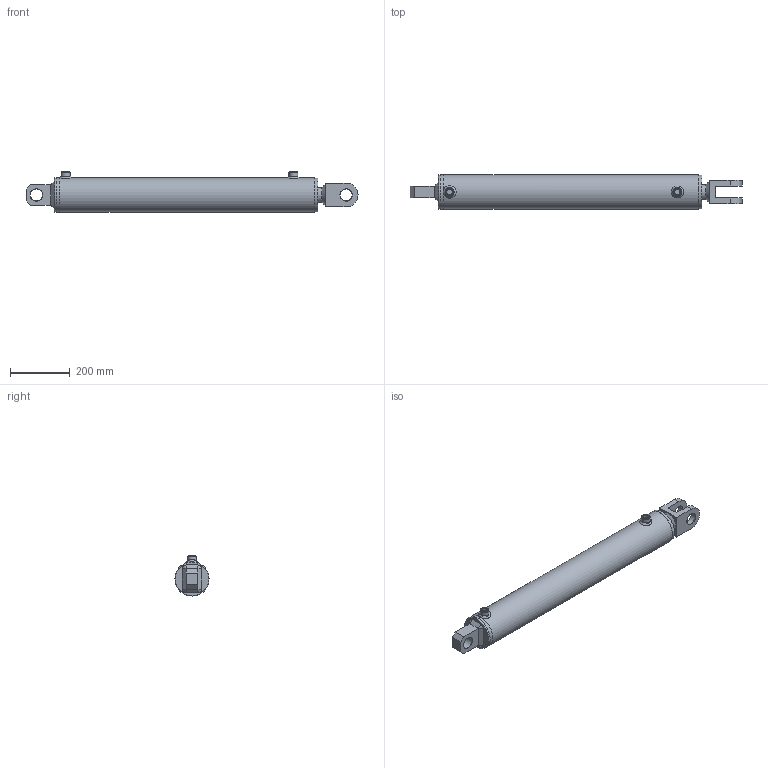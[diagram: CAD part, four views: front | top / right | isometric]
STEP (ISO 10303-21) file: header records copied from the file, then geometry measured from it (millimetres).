
FILE_DESCRIPTION( ( 'Unknown' ), '1' );
FILE_NAME( 'E:/LIBRERIA_3d/CILINDRI/HM5/HM56500700.stp', 'Unknown', ( 'Unknown' ), ( 'Unknown' ), 'PSStep 17.0.49', 'Unknown', ' ' );
FILE_SCHEMA( ( 'AUTOMOTIVE_DESIGN { 1 0 10303 214 1 1 1 1 }' ) );
Length unit declared in the file: millimetre
Products named in the file (29): CG11510050; CT00100033; STL6700700-oa7; Saldatura d'angolo 1-oa5; FTM6700800-oa6; CBSC220800; HM06500700; CF00100115; Saldatura con preparazione 1-oa3; Saldatura d'angolo 1-oa4; CBS0800000; CDA0003320; APG0800000; SBL5060700; Assem1; CSCS004010; CFS0000040; COF4000000; Saldatura d'angolo 1-oa0; Saldatura con preparazione 1-oa1; Saldatura d'angolo 2-oa2
Assembly tree (21 placements, depth 4):
  Saldatura d'angolo 1-oa5
  Saldatura d'angolo 1-oa5
  Saldatura d'angolo 1-oa4
  Saldatura d'angolo 1-oa4
  Assem1
    CSCS004010
    CFS0000040
    COF4000000
    Saldatura con preparazione 1-oa1
    Saldatura con preparazione 1-oa1
    HM06500700
      CF00100115
      Saldatura con preparazione 1-oa3
      Saldatura con preparazione 1-oa3
      CBS0800000
      CDA0003320
      APG0800000  x2
      SBL5060700
      CG11510050
        CG11510050
      CT00100033
        CT00100033
      STL6700700-oa7
        FTM6700800-oa6
        CBSC220800
Bounding box: 1115 x 115 x 135 mm (x, y, z)
Volume: 5422801.2 mm3; surface area: 1021285 mm2
Topology: 25 solids, 25 shells, 283 faces, 602 edges, 370 vertices
Faces by surface type: plane 94, cylinder 71, cone 48, torus 36, bspline 34
Full cylindrical faces by diameter (mm): 4.25 x3, 8 x2, 12 x1, 18.631 x2, 19.5 x2, 20.95 x2, 26 x2, 30 x2, 32.4 x1, 33 x5, 39.2 x1, 40.25 x3, 50 x10, 53 x3, 58.6 x1, 60 x1, 75 x1, 91.5 x1, 93.14 x2, 98.05 x2, 99.9 x1, 100 x1, 100.3 x1, 100.5 x1, 100.6 x1, 101 x1, 102 x3, 102.835 x1, 105 x1, 114 x1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
Entity records: 11908 total; most frequent: CARTESIAN_POINT 4536, DIRECTION 1062, ORIENTED_EDGE 768, AXIS2_PLACEMENT_3D 484, EDGE_LOOP 475, EDGE_CURVE 384, FACE_OUTER_BOUND 378, VERTEX_POINT 314
